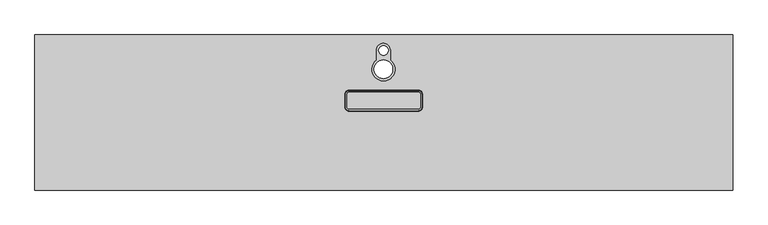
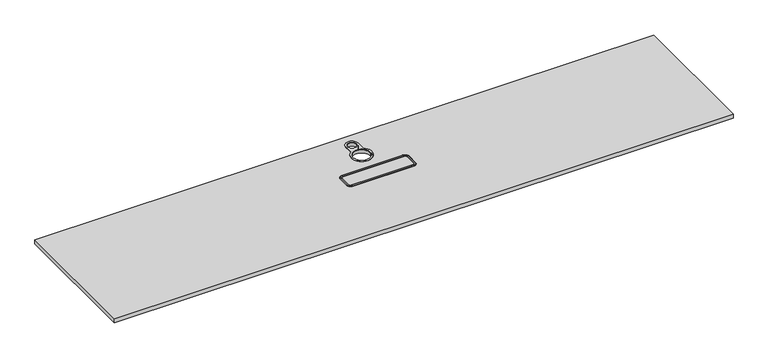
"""IFC4 building model written with IfcOpenShell, lengths in millimetres: furniture geometry, Geiger_GeigerOneCasegoods_CredenzaTopLowHeightWithLegandShro : Veneer 108Wx 24Dx 0.75H."""

import ifcopenshell
import ifcopenshell.guid

model = None  # the IFC model being written
_history = None  # IfcOwnerHistory: only IFC2X3 demands one
_inside = {}  # id of a spatial element -> (the spatial element, [elements in it])
_under = {}  # id of a project, library or spatial element -> (it, [spatial elements below it])
_declared = {}  # id of a project -> (the project, [libraries it declares])
_typed = {}  # id of a type object -> (the type object, [elements of that type])
_made_of = {}  # id of a material, layer set ... -> (it, [elements and type objects made of it])


def new_model(schema):
    """Start an empty IFC model of exactly this schema.

    Asked for "IFC4X3", IfcOpenShell would pick the latest addendum, in which some entities
    have other attributes; the version numbers below select the first issue.
    IFC2X3 requires an IfcOwnerHistory on every rooted entity: one is made here for all.
    """
    global model, _history
    if schema == "IFC4X3":
        model = ifcopenshell.file(schema_version=(4, 3, 0, 0))
    else:
        model = ifcopenshell.file(schema=schema)
    _inside.clear()
    _under.clear()
    _declared.clear()
    _typed.clear()
    _made_of.clear()
    _history = None
    if model.schema == "IFC2X3":
        org = make("IfcOrganization", Name="unknown")
        user = make(
            "IfcPersonAndOrganization",
            ThePerson=make("IfcPerson", FamilyName="unknown"),
            TheOrganization=org,
        )
        app = make(
            "IfcApplication",
            ApplicationDeveloper=org,
            Version="unknown",
            ApplicationFullName="unknown",
            ApplicationIdentifier="unknown",
        )
        _history = make(
            "IfcOwnerHistory",
            OwningUser=user,
            OwningApplication=app,
            ChangeAction="ADDED",
            CreationDate=0,
        )
    return model


def make(cls, **values):
    """One entity of the class cls with the attributes given. An attribute that is None is left unset."""
    return model.create_entity(
        cls, **{name: value for name, value in values.items() if value is not None}
    )


def rooted(cls, **values):
    """An entity with a GlobalId (a new one), such as an element, a storey or a relation."""
    return make(cls, GlobalId=ifcopenshell.guid.new(), OwnerHistory=_history, **values)


def si_unit(unit_type, name, prefix=None):
    """IfcSIUnit, for example si_unit("LENGTHUNIT", "METRE", prefix="MILLI")."""
    return make("IfcSIUnit", UnitType=unit_type, Prefix=prefix, Name=name)


def assignment(units):
    """IfcUnitAssignment: the units of a project."""
    return None if units is None else make("IfcUnitAssignment", Units=units)


def point(xyz):
    """IfcCartesianPoint."""
    return None if xyz is None else make("IfcCartesianPoint", Coordinates=xyz)


def direction(xyz):
    """IfcDirection."""
    return None if xyz is None else make("IfcDirection", DirectionRatios=xyz)


def frame(location, z_axis=None, x_axis=None):
    """IfcAxis2Placement3D, a coordinate frame: its origin and axes. An axis left out is left unset."""
    return make(
        "IfcAxis2Placement3D",
        Location=point(location),
        Axis=direction(z_axis),
        RefDirection=direction(x_axis),
    )


def frame_2d(location, x_axis=None):
    """IfcAxis2Placement2D, a coordinate frame in the plane: its origin and x axis."""
    return make(
        "IfcAxis2Placement2D", Location=point(location), RefDirection=direction(x_axis)
    )


def origin():
    """The frame at (0, 0, 0) with its axes left unset."""
    return frame((0.0, 0.0, 0.0))


def origin_with_axes():
    """The frame at (0, 0, 0) with the z axis (0, 0, 1) and the x axis (1, 0, 0) written out."""
    return frame((0.0, 0.0, 0.0), z_axis=(0.0, 0.0, 1.0), x_axis=(1.0, 0.0, 0.0))


def place(relative_to, where):
    """IfcLocalPlacement: puts the frame where relative to a parent placement (None: the world)."""
    return make(
        "IfcLocalPlacement", PlacementRelTo=relative_to, RelativePlacement=where
    )


def context(
    kind, dimensions, precision=None, world=None, true_north=None, identifier=None
):
    """IfcGeometricRepresentationContext, for example the 3D "Model" context."""
    return make(
        "IfcGeometricRepresentationContext",
        ContextIdentifier=identifier,
        ContextType=kind,
        CoordinateSpaceDimension=dimensions,
        Precision=precision,
        WorldCoordinateSystem=world,
        TrueNorth=true_north,
    )


def project(units=None, contexts=None):
    """IfcProject with its units and contexts."""
    return rooted(
        "IfcProject",
        Name="project",
        RepresentationContexts=contexts,
        UnitsInContext=assignment(units),
    )


def spatial(cls, under=None, at=None, **own):
    """A site, building, storey or space (cls), placed at a placement, below another one or the project."""
    s = rooted(cls, ObjectPlacement=at, **own)
    if under is not None:
        _under.setdefault(under.id(), (under, []))[1].append(s)
    return s


def polyline(points):
    """IfcPolyline through the points."""
    return make("IfcPolyline", Points=[point(p) for p in points])


def circle_curve(where, radius):
    """IfcCircle in the frame where."""
    return make("IfcCircle", Position=where, Radius=radius)


def ellipse_curve(where, semi_axis1, semi_axis2):
    """IfcEllipse in the frame where."""
    return make(
        "IfcEllipse", Position=where, SemiAxis1=semi_axis1, SemiAxis2=semi_axis2
    )


def trimmed(basis, trim1, trim2, sense, master):
    """IfcTrimmedCurve: the piece of a basis curve between two trims."""
    return make(
        "IfcTrimmedCurve",
        BasisCurve=basis,
        Trim1=trim1,
        Trim2=trim2,
        SenseAgreement=sense,
        MasterRepresentation=master,
    )


def segment(curve, same_sense, transition):
    """IfcCompositeCurveSegment."""
    return make(
        "IfcCompositeCurveSegment",
        Transition=transition,
        SameSense=same_sense,
        ParentCurve=curve,
    )


def composite_curve(segments, self_intersect=None):
    """IfcCompositeCurve: segments joined end to end."""
    return make("IfcCompositeCurve", Segments=segments, SelfIntersect=self_intersect)


def outline(outer, holes=None, kind="AREA"):
    """IfcArbitraryClosedProfileDef: a profile drawn as a closed curve; with holes, ...WithVoids."""
    if holes is None:
        return make("IfcArbitraryClosedProfileDef", ProfileType=kind, OuterCurve=outer)
    return make(
        "IfcArbitraryProfileDefWithVoids",
        ProfileType=kind,
        OuterCurve=outer,
        InnerCurves=holes,
    )


def extrude(swept, where, along, depth):
    """IfcExtrudedAreaSolid: the profile swept, set in the frame where, extruded along a direction by depth."""
    return make(
        "IfcExtrudedAreaSolid",
        SweptArea=swept,
        Position=where,
        ExtrudedDirection=direction(along),
        Depth=depth,
    )


def shape(context_of_items, identifier, shape_type, items):
    """IfcShapeRepresentation: the items that make up one representation, for example the "Body"."""
    return make(
        "IfcShapeRepresentation",
        ContextOfItems=context_of_items,
        RepresentationIdentifier=identifier,
        RepresentationType=shape_type,
        Items=items,
    )


def source(mapping_origin, context_of_items, identifier, shape_type, items):
    """IfcRepresentationMap: a shape defined once, which mapped items show again and again."""
    return make(
        "IfcRepresentationMap",
        MappingOrigin=mapping_origin,
        MappedRepresentation=shape(context_of_items, identifier, shape_type, items),
    )


def transform(
    local_origin,
    x_axis=None,
    y_axis=None,
    z_axis=None,
    scale=None,
    scale2=None,
    scale3=None,
    uniform=True,
):
    """IfcCartesianTransformationOperator3D, or its non-uniform kind. x_axis, y_axis, z_axis: its Axis1, 2, 3."""
    if uniform:
        return make(
            "IfcCartesianTransformationOperator3D",
            Axis1=direction(x_axis),
            Axis2=direction(y_axis),
            LocalOrigin=point(local_origin),
            Scale=scale,
            Axis3=direction(z_axis),
        )
    return make(
        "IfcCartesianTransformationOperator3DnonUniform",
        Axis1=direction(x_axis),
        Axis2=direction(y_axis),
        LocalOrigin=point(local_origin),
        Scale=scale,
        Axis3=direction(z_axis),
        Scale2=scale2,
        Scale3=scale3,
    )


def mapped(mapping_source, mapping_target):
    """IfcMappedItem: shows the shape of a source again, moved by a transform."""
    return make(
        "IfcMappedItem", MappingSource=mapping_source, MappingTarget=mapping_target
    )


def made_of(thing, what):
    """Note that an element or type object is made of a material, layer set ...; save() writes the relation."""
    if what is not None:
        _made_of.setdefault(what.id(), (what, []))[1].append(thing)
    return thing


def element(
    cls,
    number,
    at=None,
    inside=None,
    cuts=None,
    type_object=None,
    material=None,
    context=None,
    identifier="Body",
    shape_type=None,
    held_by="IfcProductDefinitionShape",
    body=None,
    shapes=None,
    **own,
):
    """One element of the class cls, such as IfcWall. Its Tag is "e" and its number.

    at: its placement. inside: the storey or other place that contains it. cuts: it is an
    opening in that element (IfcRelVoidsElement). A single representation is given by context,
    identifier, shape_type and body (its items); several are given by shapes. held_by: the class
    of the entity that holds the representations. save() writes the other relations.
    """
    e = rooted(cls, Tag="e%d" % number, ObjectPlacement=at, **own)
    if body is not None:
        shapes = [shape(context, identifier, shape_type, body)]
    if shapes is not None:
        e.Representation = make(held_by, Representations=shapes)
    if inside is not None:
        _inside.setdefault(inside.id(), (inside, []))[1].append(e)
    if cuts is not None:
        rooted(
            "IfcRelVoidsElement", RelatingBuildingElement=cuts, RelatedOpeningElement=e
        )
    if type_object is not None:
        _typed.setdefault(type_object.id(), (type_object, []))[1].append(e)
    return made_of(e, material)


def aggregate(whole, parts):
    """IfcRelAggregates: a whole, such as a stair, and the parts it consists of."""
    return rooted("IfcRelAggregates", RelatingObject=whole, RelatedObjects=parts)


def save(model, path):
    """Write the relations noted so far, then the file.

    IfcRelAggregates (storeys below a building ...), IfcRelContainedInSpatialStructure (elements
    in a storey), IfcRelDefinesByType, IfcRelAssociatesMaterial and IfcRelDeclares: one each for
    every whole, place, type object, material and project.
    """
    for whole, parts in _under.values():
        aggregate(whole, parts)
    for where, things in _inside.values():
        rooted(
            "IfcRelContainedInSpatialStructure",
            RelatedElements=things,
            RelatingStructure=where,
        )
    for kind, things in _typed.values():
        rooted("IfcRelDefinesByType", RelatedObjects=things, RelatingType=kind)
    for what, things in _made_of.values():
        rooted("IfcRelAssociatesMaterial", RelatedObjects=things, RelatingMaterial=what)
    for by, libraries in _declared.values():
        rooted("IfcRelDeclares", RelatingContext=by, RelatedDefinitions=libraries)
    model.write(path)


def plane_surface(at):
    """IfcPlane: the flat surface through the origin of the frame at, square to its z axis."""
    return make("IfcPlane", Position=at)


def cylinder_surface(at, radius):
    """IfcCylindricalSurface: all points at the distance radius from the z axis of the frame at."""
    return make("IfcCylindricalSurface", Position=at, Radius=radius)


def revolved_surface(curve, axis_point, axis_direction):
    """IfcSurfaceOfRevolution: the curve turned about the line through axis_point along axis_direction."""
    return make(
        "IfcSurfaceOfRevolution",
        SweptCurve=make("IfcArbitraryOpenProfileDef", ProfileType="CURVE", Curve=curve),
        AxisPosition=make("IfcAxis1Placement", Location=point(axis_point), Axis=direction(axis_direction)),
    )


def advanced_brep(points, edges, surfaces, faces):
    """IfcAdvancedBrep: a solid bounded by faces that lie on surfaces and meet in shared edges.

    An edge is (start, end): straight between two places in points (the first is 0);
    or (start, end, curve); or (start, end, curve, False) where it runs against its curve.
    A face is (place in surfaces, loops), or (place, loops, False) where it looks against
    its surface's normal. A loop lists edges by number (the first is 1), with a minus sign
    where the edge is run from its end to its start. The first loop is the outer one.
    """
    corners = [point(p) for p in points]
    vertices = [make("IfcVertexPoint", VertexGeometry=c) for c in corners]
    made = []
    for start, end, *more in edges:
        made.append(
            make(
                "IfcEdgeCurve",
                EdgeStart=vertices[start],
                EdgeEnd=vertices[end],
                EdgeGeometry=more[0] if more else make("IfcPolyline", Points=[corners[start], corners[end]]),
                SameSense=more[1] if len(more) > 1 else True,
            )
        )
    hull = []
    for where, loops, *sense in faces:
        bounds = []
        for j, loop in enumerate(loops):
            ring = [make("IfcOrientedEdge", EdgeElement=made[abs(k) - 1], Orientation=k > 0) for k in loop]
            bounds.append(
                make(
                    "IfcFaceOuterBound" if j == 0 else "IfcFaceBound",
                    Bound=make("IfcEdgeLoop", EdgeList=ring),
                    Orientation=True,
                )
            )
        hull.append(make("IfcAdvancedFace", Bounds=bounds, FaceSurface=surfaces[where], SameSense=sense[0] if sense else True))
    return make("IfcAdvancedBrep", Outer=make("IfcClosedShell", CfsFaces=hull))


def furniture_ff0d8c2a(model_context):
    return source(origin(), model_context, "Body", "SolidModel", [
        extrude(outline(composite_curve([segment(polyline([(1507.88, -291.0), (1235.12, -291.0)]), True, "CONTINUOUS"), segment(trimmed(circle_curve(frame_2d((1235.12, -283.38)), 7.62), [point((1235.12, -291.0))], [point((1227.5, -283.38))], False, "CARTESIAN"), True, "CONTINUOUS"), segment(polyline([(1227.5, -283.38), (1227.5, -233.62)]), True, "CONTINUOUS"), segment(trimmed(circle_curve(frame_2d((1235.12, -233.62)), 7.62), [point((1227.5, -233.62))], [point((1235.12, -226.0))], False, "CARTESIAN"), True, "CONTINUOUS"), segment(polyline([(1235.12, -226.0), (1507.88, -226.0)]), True, "CONTINUOUS"), segment(trimmed(circle_curve(frame_2d((1507.88, -233.62)), 7.62), [point((1507.88, -226.0))], [point((1515.5, -233.62))], False, "CARTESIAN"), True, "CONTINUOUS"), segment(polyline([(1515.5, -233.62), (1515.5, -283.38)]), True, "CONTINUOUS"), segment(trimmed(circle_curve(frame_2d((1507.88, -283.38)), 7.62), [point((1515.5, -283.38))], [point((1507.88, -291.0))], False, "CARTESIAN"), True, "CONTINUOUS")], self_intersect=False)), frame((0.0, 0.0, 18.6723246), z_axis=(0.0, 0.0, 1.0), x_axis=(1.0, 0.0, 0.0)), (0.0, 0.0, 1.0), 0.6779842),
        advanced_brep(
        [(1227.5, -283.38, 20.5), (1235.12, -291.0, 20.5), (1235.12, -291.0, 18.6723246), (1227.5, -283.38, 18.6723246), (1219.0, -283.38, 19.5148239), (1235.12, -299.5, 19.5148239), (1235.12, -298.5148239, 20.5), (1219.9851761, -283.38, 20.5), (1219.0, -283.38, 18.6723246), (1235.12, -299.5, 18.6723246), (1227.5, -233.62, 18.6723246), (1227.5, -233.62, 20.5), (1219.9851761, -233.62, 20.5), (1219.0, -233.62, 19.5148239), (1219.0, -233.62, 18.6723246), (1235.12, -226.0, 20.5), (1235.12, -226.0, 18.6723246), (1235.12, -217.5, 19.5148239), (1235.12, -218.4851761, 20.5), (1235.12, -217.5, 18.6723246), (1507.88, -226.0, 18.6723246), (1507.88, -226.0, 20.5), (1507.88, -218.4851761, 20.5), (1507.88, -217.5, 19.5148239), (1507.88, -217.5, 18.6723246), (1515.5, -233.62, 20.5), (1515.5, -233.62, 18.6723246), (1524.0, -233.62, 19.5148239), (1523.0148239, -233.62, 20.5), (1524.0, -233.62, 18.6723246), (1515.5, -283.38, 18.6723246), (1515.5, -283.38, 20.5), (1523.0148239, -283.38, 20.5), (1524.0, -283.38, 19.5148239), (1524.0, -283.38, 18.6723246), (1507.88, -291.0, 20.5), (1507.88, -291.0, 18.6723246), (1507.88, -299.5, 19.5148239), (1507.88, -298.5148239, 20.5), (1507.88, -299.5, 18.6723246)],
        [
            (0, 1, circle_curve(frame((1235.12, -283.38, 20.5), z_axis=(0.0, 0.0, 1.0), x_axis=(0.0, -1.0, 0.0)), 7.62)),
            (1, 2),
            (2, 3, circle_curve(frame((1235.12, -283.38, 18.6723246), z_axis=(0.0, 0.0, -1.0), x_axis=(0.0, -1.0, 0.0)), 7.62)),
            (3, 0),
            (4, 5, circle_curve(frame((1235.12, -283.38, 19.5148239), z_axis=(0.0, 0.0, 1.0), x_axis=(0.0, -1.0, 0.0)), 16.12)),
            (5, 6, circle_curve(frame((1235.12, -298.5148239, 19.5148239), z_axis=(-1.0, 0.0, 0.0), x_axis=(0.0, -1.0, 0.0)), 0.9851761)),
            (6, 7, circle_curve(frame((1235.12, -283.38, 20.5), z_axis=(0.0, 0.0, -1.0), x_axis=(0.0, -1.0, 0.0)), 15.1348239)),
            (7, 4, circle_curve(frame((1219.9851761, -283.38, 19.5148239), z_axis=(0.0, -1.0, 0.0), x_axis=(-1.0, 0.0, 0.0)), 0.9851761)),
            (8, 9, circle_curve(frame((1235.12, -283.38, 18.6723246), z_axis=(0.0, 0.0, 1.0), x_axis=(0.0, -1.0, 0.0)), 16.12)),
            (9, 5),
            (4, 8),
            (3, 10),
            (10, 11),
            (11, 0),
            (7, 12),
            (12, 13, circle_curve(frame((1219.9851761, -233.62, 19.5148239), z_axis=(0.0, -1.0, 0.0), x_axis=(-1.0, 0.0, 0.0)), 0.9851761)),
            (13, 4),
            (13, 14),
            (14, 8),
            (15, 11, circle_curve(frame((1235.12, -233.62, 20.5), z_axis=(0.0, 0.0, 1.0), x_axis=(-1.0, 0.0, 0.0)), 7.62)),
            (10, 16, circle_curve(frame((1235.12, -233.62, 18.6723246), z_axis=(0.0, 0.0, -1.0), x_axis=(-1.0, 0.0, 0.0)), 7.62)),
            (16, 15),
            (17, 13, circle_curve(frame((1235.12, -233.62, 19.5148239), z_axis=(0.0, 0.0, 1.0), x_axis=(-1.0, 0.0, 0.0)), 16.12)),
            (12, 18, circle_curve(frame((1235.12, -233.62, 20.5), z_axis=(0.0, 0.0, -1.0), x_axis=(-1.0, 0.0, 0.0)), 15.1348239)),
            (18, 17, circle_curve(frame((1235.12, -218.4851761, 19.5148239), z_axis=(-1.0, 0.0, 0.0), x_axis=(0.0, 1.0, 0.0)), 0.9851761)),
            (19, 14, circle_curve(frame((1235.12, -233.62, 18.6723246), z_axis=(0.0, 0.0, 1.0), x_axis=(-1.0, 0.0, 0.0)), 16.12)),
            (17, 19),
            (16, 20),
            (20, 21),
            (21, 15),
            (18, 22),
            (22, 23, circle_curve(frame((1507.88, -218.4851761, 19.5148239), z_axis=(-1.0, 0.0, 0.0), x_axis=(0.0, 1.0, 0.0)), 0.9851761)),
            (23, 17),
            (23, 24),
            (24, 19),
            (25, 21, circle_curve(frame((1507.88, -233.62, 20.5), z_axis=(0.0, 0.0, 1.0), x_axis=(0.0, 1.0, 0.0)), 7.62)),
            (20, 26, circle_curve(frame((1507.88, -233.62, 18.6723246), z_axis=(0.0, 0.0, -1.0), x_axis=(0.0, 1.0, 0.0)), 7.62)),
            (26, 25),
            (27, 23, circle_curve(frame((1507.88, -233.62, 19.5148239), z_axis=(0.0, 0.0, 1.0), x_axis=(0.0, 1.0, 0.0)), 16.12)),
            (22, 28, circle_curve(frame((1507.88, -233.62, 20.5), z_axis=(0.0, 0.0, -1.0), x_axis=(0.0, 1.0, 0.0)), 15.1348239)),
            (28, 27, circle_curve(frame((1523.0148239, -233.62, 19.5148239), z_axis=(0.0, 1.0, 0.0), x_axis=(1.0, 0.0, 0.0)), 0.9851761)),
            (29, 24, circle_curve(frame((1507.88, -233.62, 18.6723246), z_axis=(0.0, 0.0, 1.0), x_axis=(0.0, 1.0, 0.0)), 16.12)),
            (27, 29),
            (26, 30),
            (30, 31),
            (31, 25),
            (28, 32),
            (32, 33, circle_curve(frame((1523.0148239, -283.38, 19.5148239), z_axis=(0.0, 1.0, 0.0), x_axis=(1.0, 0.0, 0.0)), 0.9851761)),
            (33, 27),
            (33, 34),
            (34, 29),
            (35, 31, circle_curve(frame((1507.88, -283.38, 20.5), z_axis=(0.0, 0.0, 1.0), x_axis=(1.0, 0.0, 0.0)), 7.62)),
            (30, 36, circle_curve(frame((1507.88, -283.38, 18.6723246), z_axis=(0.0, 0.0, -1.0), x_axis=(1.0, 0.0, 0.0)), 7.62)),
            (36, 35),
            (37, 33, circle_curve(frame((1507.88, -283.38, 19.5148239), z_axis=(0.0, 0.0, 1.0), x_axis=(1.0, 0.0, 0.0)), 16.12)),
            (32, 38, circle_curve(frame((1507.88, -283.38, 20.5), z_axis=(0.0, 0.0, -1.0), x_axis=(1.0, 0.0, 0.0)), 15.1348239)),
            (38, 37, circle_curve(frame((1507.88, -298.5148239, 19.5148239), z_axis=(1.0, 0.0, 0.0), x_axis=(0.0, -1.0, 0.0)), 0.9851761)),
            (39, 34, circle_curve(frame((1507.88, -283.38, 18.6723246), z_axis=(0.0, 0.0, 1.0), x_axis=(1.0, 0.0, 0.0)), 16.12)),
            (37, 39),
            (36, 2),
            (1, 35),
            (6, 38),
            (5, 37),
            (9, 39),
        ],
        [
            revolved_surface(polyline([(1235.12, -291.0, 18.6723246), (1235.12, -291.0, 20.5)]), (1235.12, -283.38, 19.05), (0.0, 0.0, -1.0)),
            revolved_surface(trimmed(ellipse_curve(frame((1235.12, -298.5148239, 19.5148239), z_axis=(1.0, 0.0, 0.0), x_axis=(0.0, -1.0, 0.0)), 0.9851761, 0.9851761), [point((1235.12, -298.5148239, 20.5))], [point((1235.12, -299.5, 19.5148239))], True, "CARTESIAN"), (1235.12, -283.38, 19.05), (0.0, 0.0, -1.0)),
            cylinder_surface(frame((1235.12, -283.38, 19.05), z_axis=(0.0, 0.0, -1.0), x_axis=(0.0, -1.0, 0.0)), 16.12),
            plane_surface(frame((1227.5, -283.38, 18.6723246), z_axis=(1.0, 0.0, 0.0), x_axis=(0.0, 1.0, 0.0))),
            cylinder_surface(frame((1219.9851761, -283.38, 19.5148239), z_axis=(0.0, -1.0, 0.0), x_axis=(-1.0, 0.0, 0.0)), 0.9851761),
            plane_surface(frame((1219.0, -283.38, 19.5148239), z_axis=(-1.0, 0.0, 0.0), x_axis=(0.0, 1.0, 0.0))),
            revolved_surface(polyline([(1227.5, -233.62, 18.6723246), (1227.5, -233.62, 20.5)]), (1235.12, -233.62, 19.05), (0.0, 0.0, -1.0)),
            revolved_surface(trimmed(ellipse_curve(frame((1219.9851761, -233.62, 19.5148239), z_axis=(0.0, -1.0, 0.0), x_axis=(-1.0, 0.0, 0.0)), 0.9851761, 0.9851761), [point((1219.9851761, -233.62, 20.5))], [point((1219.0, -233.62, 19.5148239))], True, "CARTESIAN"), (1235.12, -233.62, 19.05), (0.0, 0.0, -1.0)),
            cylinder_surface(frame((1235.12, -233.62, 19.05), z_axis=(0.0, 0.0, -1.0), x_axis=(-1.0, 0.0, 0.0)), 16.12),
            plane_surface(frame((1235.12, -226.0, 18.6723246), z_axis=(0.0, -1.0, 0.0), x_axis=(1.0, 0.0, 0.0))),
            cylinder_surface(frame((1235.12, -218.4851761, 19.5148239), z_axis=(-1.0, 0.0, 0.0), x_axis=(0.0, 1.0, 0.0)), 0.9851761),
            plane_surface(frame((1235.12, -217.5, 19.5148239), z_axis=(0.0, 1.0, 0.0), x_axis=(1.0, 0.0, 0.0))),
            revolved_surface(polyline([(1507.88, -226.0, 18.6723246), (1507.88, -226.0, 20.5)]), (1507.88, -233.62, 19.05), (0.0, 0.0, -1.0)),
            revolved_surface(trimmed(ellipse_curve(frame((1507.88, -218.4851761, 19.5148239), z_axis=(-1.0, 0.0, 0.0), x_axis=(0.0, 1.0, 0.0)), 0.9851761, 0.9851761), [point((1507.88, -218.4851761, 20.5))], [point((1507.88, -217.5, 19.5148239))], True, "CARTESIAN"), (1507.88, -233.62, 19.05), (0.0, 0.0, -1.0)),
            cylinder_surface(frame((1507.88, -233.62, 19.05), z_axis=(0.0, 0.0, -1.0), x_axis=(0.0, 1.0, 0.0)), 16.12),
            plane_surface(frame((1515.5, -233.62, 18.6723246), z_axis=(-1.0, 0.0, 0.0), x_axis=(0.0, -1.0, 0.0))),
            cylinder_surface(frame((1523.0148239, -233.62, 19.5148239), z_axis=(0.0, 1.0, 0.0), x_axis=(1.0, 0.0, 0.0)), 0.9851761),
            plane_surface(frame((1524.0, -233.62, 19.5148239), z_axis=(1.0, 0.0, 0.0), x_axis=(0.0, -1.0, 0.0))),
            revolved_surface(polyline([(1515.5, -283.38, 18.6723246), (1515.5, -283.38, 20.5)]), (1507.88, -283.38, 19.05), (0.0, 0.0, -1.0)),
            revolved_surface(trimmed(ellipse_curve(frame((1523.0148239, -283.38, 19.5148239), z_axis=(0.0, 1.0, 0.0), x_axis=(1.0, 0.0, 0.0)), 0.9851761, 0.9851761), [point((1523.0148239, -283.38, 20.5))], [point((1524.0, -283.38, 19.5148239))], True, "CARTESIAN"), (1507.88, -283.38, 19.05), (0.0, 0.0, -1.0)),
            cylinder_surface(frame((1507.88, -283.38, 19.05), z_axis=(0.0, 0.0, -1.0), x_axis=(1.0, 0.0, 0.0)), 16.12),
            plane_surface(frame((1507.88, -291.0, 18.6723246), z_axis=(0.0, 1.0, 0.0), x_axis=(-1.0, 0.0, 0.0))),
            plane_surface(frame((1507.88, -291.0, 20.5), z_axis=(0.0, 0.0, 1.0), x_axis=(-1.0, 0.0, 0.0))),
            cylinder_surface(frame((1507.88, -298.5148239, 19.5148239), z_axis=(1.0, 0.0, 0.0), x_axis=(0.0, -1.0, 0.0)), 0.9851761),
            plane_surface(frame((1507.88, -299.5, 19.5148239), z_axis=(0.0, -1.0, 0.0), x_axis=(-1.0, 0.0, 0.0))),
            plane_surface(frame((1507.88, -299.5, 18.6723246), z_axis=(0.0, 0.0, -1.0), x_axis=(-1.0, 0.0, 0.0))),
        ],
        [
            (0, [[1, 2, 3, 4]]),
            (1, [[5, 6, 7, 8]]),
            (2, [[9, 10, -5, 11]]),
            (3, [[-4, 12, 13, 14]]),
            (4, [[-8, 15, 16, 17]]),
            (5, [[-11, -17, 18, 19]]),
            (6, [[20, -13, 21, 22]]),
            (7, [[23, -16, 24, 25]]),
            (8, [[26, -18, -23, 27]]),
            (9, [[-22, 28, 29, 30]]),
            (10, [[-25, 31, 32, 33]]),
            (11, [[-27, -33, 34, 35]]),
            (12, [[36, -29, 37, 38]]),
            (13, [[39, -32, 40, 41]]),
            (14, [[42, -34, -39, 43]]),
            (15, [[-38, 44, 45, 46]]),
            (16, [[-41, 47, 48, 49]]),
            (17, [[-43, -49, 50, 51]]),
            (18, [[52, -45, 53, 54]]),
            (19, [[55, -48, 56, 57]]),
            (20, [[58, -50, -55, 59]]),
            (21, [[-54, 60, -2, 61]]),
            (22, [[62, -56, -47, -40, -31, -24, -15, -7], [-46, -52, -61, -1, -14, -20, -30, -36]]),
            (23, [[-57, -62, -6, 63]]),
            (24, [[-59, -63, -10, 64]]),
            (25, [[-51, -58, -64, -9, -19, -26, -35, -42], [-60, -53, -44, -37, -28, -21, -12, -3]]),
        ],
    ),
        extrude(outline(polyline([(2743.2, 0.0), (2743.2, -609.6), (0.0, -609.6), (0.0, 0.0), (2743.2, 0.0)]), holes=[composite_curve([segment(trimmed(circle_curve(frame_2d((1370.5, -61.000002)), 23.1477449), [point((1347.3522551, -61.000002))], [point((1393.6477449, -61.000002))], True, "CARTESIAN"), True, "CONTINUOUS"), segment(trimmed(circle_curve(frame_2d((1370.5, -61.000002)), 23.1477449), [point((1393.6477449, -61.000002))], [point((1347.3522551, -61.000002))], True, "CARTESIAN"), True, "CONTINUOUS")], self_intersect=False), composite_curve([segment(trimmed(circle_curve(frame_2d((1370.5, -135.0057226)), 40.382326), [point((1330.117674, -135.0057226))], [point((1410.882326, -135.0057226))], True, "CARTESIAN"), True, "CONTINUOUS"), segment(trimmed(circle_curve(frame_2d((1370.5, -135.0057226)), 40.382326), [point((1410.882326, -135.0057226))], [point((1330.117674, -135.0057226))], True, "CARTESIAN"), True, "CONTINUOUS")], self_intersect=False)]), origin_with_axes(), (0.0, 0.0, 1.0), 19.05),
        extrude(outline(composite_curve([segment(trimmed(circle_curve(frame_2d((1370.0337167, -60.9055219)), 27.5), [point((1342.5337167, -60.9055219))], [point((1397.5337167, -60.9055219))], False, "CARTESIAN"), True, "CONTINUOUS"), segment(polyline([(1397.5337167, -60.9055219), (1397.5337167, -98.6677415)]), True, "CONTINUOUS"), segment(trimmed(circle_curve(frame_2d((1370.5, -135.0057226)), 45.2909561), [point((1397.5337167, -98.6677415))], [point((1342.5337167, -99.3804829))], False, "CARTESIAN"), True, "CONTINUOUS"), segment(polyline([(1342.5337167, -99.3804829), (1342.5337167, -60.9055219)]), True, "CONTINUOUS")], self_intersect=False), holes=[composite_curve([segment(trimmed(circle_curve(frame_2d((1370.5, -61.000002)), 18.9999985), [point((1370.5, -42.0000035))], [point((1370.5, -80.0000005))], True, "CARTESIAN"), True, "CONTINUOUS"), segment(trimmed(circle_curve(frame_2d((1370.5, -61.000002)), 18.9999985), [point((1370.5, -80.0000005))], [point((1370.5, -42.0000035))], True, "CARTESIAN"), True, "CONTINUOUS")], self_intersect=False), composite_curve([segment(trimmed(circle_curve(frame_2d((1370.5, -135.0057226)), 36.4999999), [point((1370.5, -98.5057227))], [point((1370.5, -171.5057224))], True, "CARTESIAN"), True, "CONTINUOUS"), segment(trimmed(circle_curve(frame_2d((1370.5, -135.0057226)), 36.4999999), [point((1370.5, -171.5057224))], [point((1370.5, -98.5057227))], True, "CARTESIAN"), True, "CONTINUOUS")], self_intersect=False)]), frame((0.0, 0.0, 19.05), z_axis=(0.0, 0.0, 1.0), x_axis=(1.0, 0.0, 0.0)), (0.0, 0.0, 1.0), 1.55),
    ])


if __name__ == "__main__":
    model = new_model("IFC4")
    model_context = context("Model", 3, world=origin())
    ifc_project = project(units=[si_unit("LENGTHUNIT", "METRE", prefix="MILLI")], contexts=[model_context])
    site = spatial("IfcSite", under=ifc_project)
    building = spatial("IfcBuilding", under=site)
    placement = place(None, origin())
    furniture_shape = furniture_ff0d8c2a(model_context)
    element("IfcFurniture", 1, ObjectType="Geiger_GeigerOneCasegoods_CredenzaTopLowHeightWithLegandShro : Veneer 108Wx 24Dx 0.75H", at=placement, inside=building, context=model_context, shape_type="MappedRepresentation", body=[
        mapped(furniture_shape, transform((0.0, 0.0, 0.0), x_axis=(1.0, 0.0, 0.0), y_axis=(0.0, 1.0, 0.0), z_axis=(0.0, 0.0, 1.0))),
    ])
    save(model, "model.ifc")
